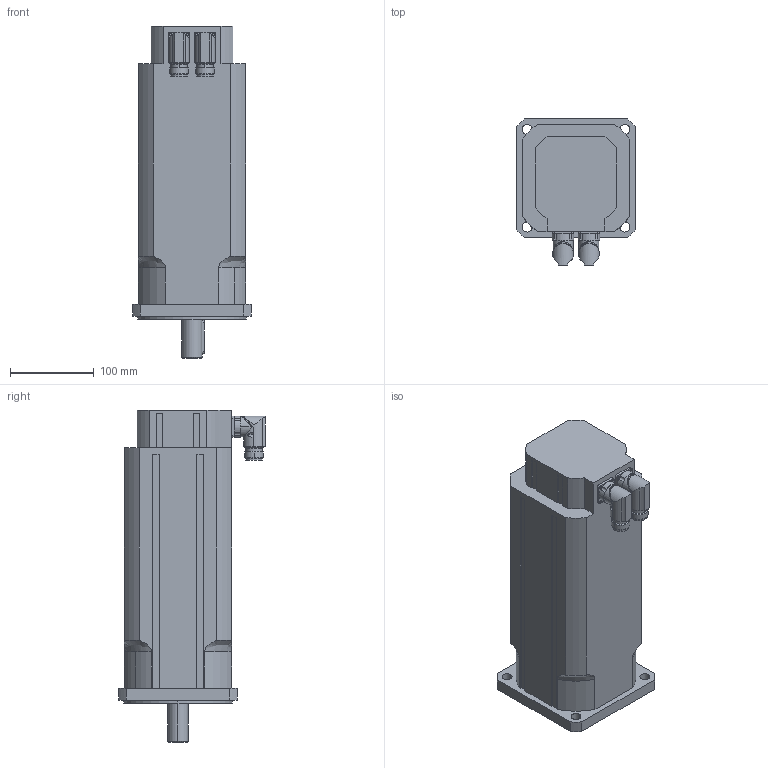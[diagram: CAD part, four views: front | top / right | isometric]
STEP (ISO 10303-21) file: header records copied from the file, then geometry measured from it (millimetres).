
FILE_DESCRIPTION(('STEP AP203'),'2;1');
FILE_NAME('MT5-2200_B.stp','2006-08-28T20:21:26',(''),(''),'2005.2.102','THINKDESIGN','');
FILE_SCHEMA(('CONFIG_CONTROL_DESIGN'));
Length unit declared in the file: millimetre
Bounding box: 142 x 175.5 x 397 mm (x, y, z)
Volume: 5303792.3 mm3; surface area: 232707.7 mm2
Topology: 3 solids, 3 shells, 255 faces, 679 edges, 439 vertices
Faces by surface type: cylinder 110, plane 107, bspline 38
Full cylindrical faces by diameter (mm): 20 x2
Entity records: 9316 total; most frequent: CARTESIAN_POINT 2863, ORIENTED_EDGE 1354, DIRECTION 1327, EDGE_CURVE 677, AXIS2_PLACEMENT_3D 493, VERTEX_POINT 439, VECTOR 341, LINE 341
